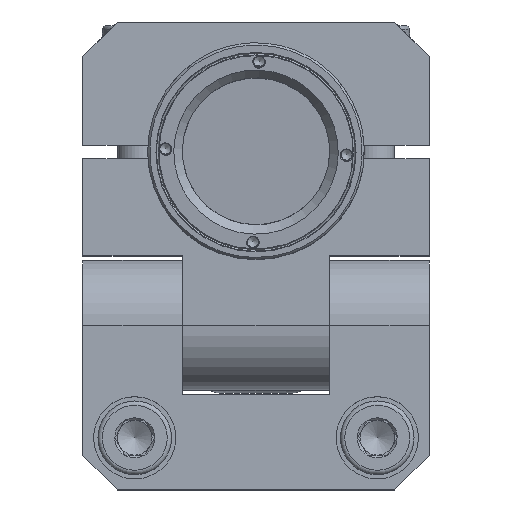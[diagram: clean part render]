
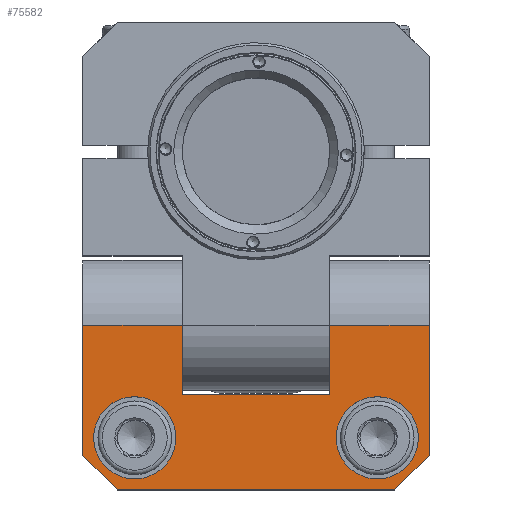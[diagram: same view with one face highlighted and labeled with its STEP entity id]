
A CAD part, top view. The second image highlights one B-rep face of the part: STEP entity #75582.
In plain terms, the highlighted planar face has unit normal (0, 0, 1).
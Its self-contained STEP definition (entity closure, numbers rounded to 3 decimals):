
#282 = CIRCLE ( 'NONE', #43068, 4.75 ) ;
#323 = DIRECTION ( 'NONE',  ( -1., 0., 0. ) ) ;
#720 = PLANE ( 'NONE',  #75707 ) ;
#2683 = VECTOR ( 'NONE', #323, 1000. ) ;
#3605 = VERTEX_POINT ( 'NONE', #29362 ) ;
#3804 = EDGE_CURVE ( 'NONE', #60168, #67320, #19889, .T. ) ;
#4065 = CARTESIAN_POINT ( 'NONE',  ( -9.25, -13., 7.5 ) ) ;
#4139 = VERTEX_POINT ( 'NONE', #6064 ) ;
#4997 = EDGE_CURVE ( 'NONE', #73153, #50467, #12294, .T. ) ;
#6064 = CARTESIAN_POINT ( 'NONE',  ( -8.5, -8., 7.5 ) ) ;
#6109 = ORIENTED_EDGE ( 'NONE', *, *, #62140, .T. ) ;
#6447 = EDGE_LOOP ( 'NONE', ( #49746, #75621, #116859, #19776, #83175, #35804, #6109, #54844, #87967, #39159 ) ) ;
#8957 = DIRECTION ( 'NONE',  ( 0.707, -0.707, 0. ) ) ;
#10045 = EDGE_CURVE ( 'NONE', #3605, #4139, #26901, .T. ) ;
#12148 = CARTESIAN_POINT ( 'NONE',  ( 20., -15., 7.5 ) ) ;
#12294 = LINE ( 'NONE', #12148, #115012 ) ;
#12326 = DIRECTION ( 'NONE',  ( -1., 0., 0. ) ) ;
#12536 = CARTESIAN_POINT ( 'NONE',  ( -20., 7.5, 7.5 ) ) ;
#12703 = AXIS2_PLACEMENT_3D ( 'NONE', #77901, #23284, #87111 ) ;
#14038 = CARTESIAN_POINT ( 'NONE',  ( -16., -19., 7.5 ) ) ;
#16165 = VERTEX_POINT ( 'NONE', #4065 ) ;
#19776 = ORIENTED_EDGE ( 'NONE', *, *, #23632, .T. ) ;
#19889 = LINE ( 'NONE', #77981, #114090 ) ;
#20748 = FACE_BOUND ( 'NONE', #99916, .T. ) ;
#21660 = DIRECTION ( 'NONE',  ( 0., -1., 0. ) ) ;
#23284 = DIRECTION ( 'NONE',  ( 0., 0., 1. ) ) ;
#23632 = EDGE_CURVE ( 'NONE', #94493, #114616, #53828, .T. ) ;
#24226 = CARTESIAN_POINT ( 'NONE',  ( 20., 0., 7.5 ) ) ;
#26041 = VECTOR ( 'NONE', #8957, 1000. ) ;
#26363 = CARTESIAN_POINT ( 'NONE',  ( -20., 0., 7.5 ) ) ;
#26901 = LINE ( 'NONE', #36568, #2683 ) ;
#27611 = LINE ( 'NONE', #12536, #73273 ) ;
#29362 = CARTESIAN_POINT ( 'NONE',  ( 8.5, -8., 7.5 ) ) ;
#29522 = VECTOR ( 'NONE', #33379, 1000. ) ;
#33379 = DIRECTION ( 'NONE',  ( -1., 0., 0. ) ) ;
#33532 = VECTOR ( 'NONE', #53536, 1000. ) ;
#35804 = ORIENTED_EDGE ( 'NONE', *, *, #10045, .T. ) ;
#36568 = CARTESIAN_POINT ( 'NONE',  ( 8.5, -8., 7.5 ) ) ;
#36700 = LINE ( 'NONE', #113272, #82383 ) ;
#36764 = DIRECTION ( 'NONE',  ( 0., 0., 1. ) ) ;
#39159 = ORIENTED_EDGE ( 'NONE', *, *, #44638, .T. ) ;
#40814 = CIRCLE ( 'NONE', #12703, 4.75 ) ;
#41748 = DIRECTION ( 'NONE',  ( 0., -1., 0. ) ) ;
#42851 = EDGE_CURVE ( 'NONE', #16165, #16165, #40814, .T. ) ;
#42975 = EDGE_CURVE ( 'NONE', #95965, #73153, #82060, .T. ) ;
#43068 = AXIS2_PLACEMENT_3D ( 'NONE', #91432, #36764, #100639 ) ;
#44638 = EDGE_CURVE ( 'NONE', #51348, #95965, #95991, .T. ) ;
#48568 = DIRECTION ( 'NONE',  ( 0., 0., -1. ) ) ;
#49321 = EDGE_CURVE ( 'NONE', #80295, #80295, #282, .T. ) ;
#49746 = ORIENTED_EDGE ( 'NONE', *, *, #42975, .T. ) ;
#50467 = VERTEX_POINT ( 'NONE', #116617 ) ;
#50500 = CARTESIAN_POINT ( 'NONE',  ( 8.5, 7.5, 7.5 ) ) ;
#51348 = VERTEX_POINT ( 'NONE', #96308 ) ;
#53536 = DIRECTION ( 'NONE',  ( 1., 0., 0. ) ) ;
#53828 = LINE ( 'NONE', #24226, #29522 ) ;
#54844 = ORIENTED_EDGE ( 'NONE', *, *, #3804, .T. ) ;
#57707 = CARTESIAN_POINT ( 'NONE',  ( 20., 7.5, 7.5 ) ) ;
#57709 = EDGE_LOOP ( 'NONE', ( #113641 ) ) ;
#58297 = EDGE_CURVE ( 'NONE', #50467, #94493, #36700, .T. ) ;
#58996 = CARTESIAN_POINT ( 'NONE',  ( 18.75, -13., 7.5 ) ) ;
#60168 = VERTEX_POINT ( 'NONE', #72402 ) ;
#62137 = CARTESIAN_POINT ( 'NONE',  ( 8.5, 0., 7.5 ) ) ;
#62140 = EDGE_CURVE ( 'NONE', #4139, #60168, #72158, .T. ) ;
#63547 = CARTESIAN_POINT ( 'NONE',  ( -16., -19., 7.5 ) ) ;
#64110 = CARTESIAN_POINT ( 'NONE',  ( 20., 0., 7.5 ) ) ;
#67320 = VERTEX_POINT ( 'NONE', #26363 ) ;
#67778 = DIRECTION ( 'NONE',  ( 0., 1., 0. ) ) ;
#72158 = LINE ( 'NONE', #75899, #93594 ) ;
#72402 = CARTESIAN_POINT ( 'NONE',  ( -8.5, 0., 7.5 ) ) ;
#72509 = EDGE_CURVE ( 'NONE', #67320, #51348, #27611, .T. ) ;
#73153 = VERTEX_POINT ( 'NONE', #90815 ) ;
#73273 = VECTOR ( 'NONE', #21660, 1000. ) ;
#75582 = ADVANCED_FACE ( 'NONE', ( #114932, #20748, #90668 ), #720, .F. ) ;
#75621 = ORIENTED_EDGE ( 'NONE', *, *, #4997, .T. ) ;
#75707 = AXIS2_PLACEMENT_3D ( 'NONE', #57707, #48568, #12326 ) ;
#75899 = CARTESIAN_POINT ( 'NONE',  ( -8.5, 7.5, 7.5 ) ) ;
#77901 = CARTESIAN_POINT ( 'NONE',  ( -14., -13., 7.5 ) ) ;
#77981 = CARTESIAN_POINT ( 'NONE',  ( 20., 0., 7.5 ) ) ;
#78141 = VECTOR ( 'NONE', #41748, 1000. ) ;
#78365 = DIRECTION ( 'NONE',  ( -1., 0., 0. ) ) ;
#80295 = VERTEX_POINT ( 'NONE', #58996 ) ;
#82060 = LINE ( 'NONE', #117328, #33532 ) ;
#82383 = VECTOR ( 'NONE', #67778, 1000. ) ;
#83175 = ORIENTED_EDGE ( 'NONE', *, *, #98232, .T. ) ;
#84306 = DIRECTION ( 'NONE',  ( 0.707, 0.707, 0. ) ) ;
#84957 = ORIENTED_EDGE ( 'NONE', *, *, #49321, .F. ) ;
#85090 = DIRECTION ( 'NONE',  ( 0., 1., 0. ) ) ;
#87111 = DIRECTION ( 'NONE',  ( 1., 0., 0. ) ) ;
#87967 = ORIENTED_EDGE ( 'NONE', *, *, #72509, .T. ) ;
#90668 = FACE_OUTER_BOUND ( 'NONE', #6447, .T. ) ;
#90815 = CARTESIAN_POINT ( 'NONE',  ( 16., -19., 7.5 ) ) ;
#91432 = CARTESIAN_POINT ( 'NONE',  ( 14., -13., 7.5 ) ) ;
#93594 = VECTOR ( 'NONE', #85090, 1000. ) ;
#94493 = VERTEX_POINT ( 'NONE', #64110 ) ;
#95965 = VERTEX_POINT ( 'NONE', #14038 ) ;
#95991 = LINE ( 'NONE', #63547, #26041 ) ;
#96308 = CARTESIAN_POINT ( 'NONE',  ( -20., -15., 7.5 ) ) ;
#98232 = EDGE_CURVE ( 'NONE', #114616, #3605, #102456, .T. ) ;
#99916 = EDGE_LOOP ( 'NONE', ( #84957 ) ) ;
#100639 = DIRECTION ( 'NONE',  ( 1., 0., 0. ) ) ;
#102456 = LINE ( 'NONE', #50500, #78141 ) ;
#113272 = CARTESIAN_POINT ( 'NONE',  ( 20., 7.5, 7.5 ) ) ;
#113641 = ORIENTED_EDGE ( 'NONE', *, *, #42851, .F. ) ;
#114090 = VECTOR ( 'NONE', #78365, 1000. ) ;
#114616 = VERTEX_POINT ( 'NONE', #62137 ) ;
#114932 = FACE_BOUND ( 'NONE', #57709, .T. ) ;
#115012 = VECTOR ( 'NONE', #84306, 1000. ) ;
#116617 = CARTESIAN_POINT ( 'NONE',  ( 20., -15., 7.5 ) ) ;
#116859 = ORIENTED_EDGE ( 'NONE', *, *, #58297, .T. ) ;
#117328 = CARTESIAN_POINT ( 'NONE',  ( 20., -19., 7.5 ) ) ;
